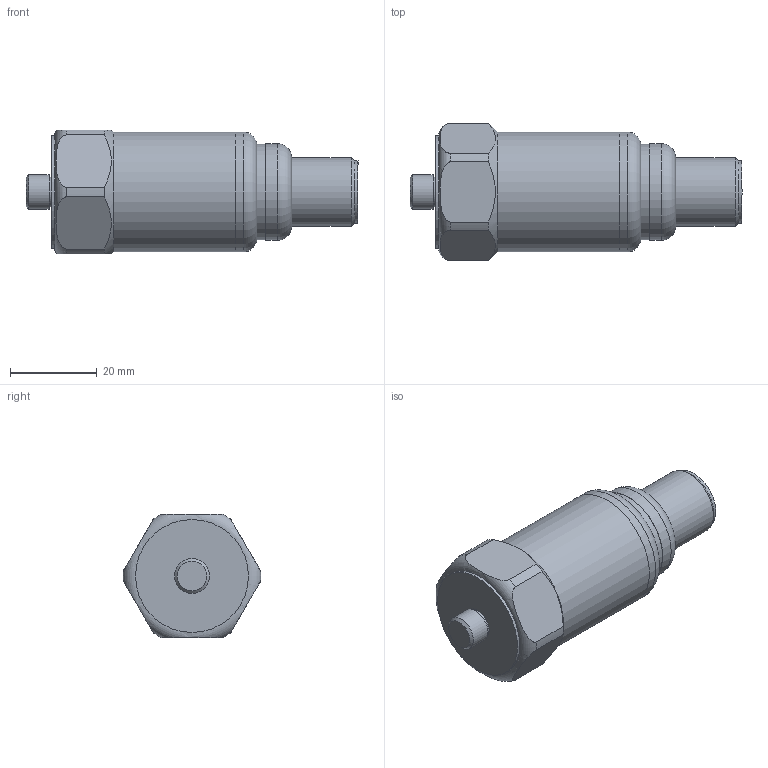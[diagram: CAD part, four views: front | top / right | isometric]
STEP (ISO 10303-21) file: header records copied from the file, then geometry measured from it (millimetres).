
FILE_DESCRIPTION(/* description */ (''),/* implementation_level */ '2;1');
FILE_NAME(/* name */ 'Z:\Engineering\Drawings\3D Library\Assemblies\Website\HS-420XXX5008.stp',/* time_stamp */ '2023-04-05T21:29:42+01:00',/* author */ ('Ricardo.Peneda'),/* organization */ (''),/* preprocessor_version */ 'ST-DEVELOPER v18.1',/* originating_system */ 'Autodesk Inventor 2021',/* authorisation */ '');
FILE_SCHEMA (('AUTOMOTIVE_DESIGN { 1 0 10303 214 3 1 1 }'));
Length unit declared in the file: inch
Products named in the file (1): HS-420XXX5008_Shrinkwrap_1
Bounding box: 76.42 x 31.69 x 28.5 mm (x, y, z)
Volume: 16007.5 mm3; surface area: 12119.9 mm2
Topology: 4 solids, 4 shells, 61 faces, 158 edges, 116 vertices
Faces by surface type: cylinder 26, plane 25, cone 6, torus 4
Full cylindrical faces by diameter (mm): 5 x1, 6.3 x1, 6.35 x1, 6.8 x1, 7 x1, 7.5 x1, 8 x1, 11.37 x1, 14.28 x1, 15.7 x1, 19 x1, 20 x1, 22 x1, 22.2 x1, 23.3 x1, 25.3 x2, 26 x1, 27.5 x2
Entity records: 2190 total; most frequent: CARTESIAN_POINT 482, DIRECTION 374, ORIENTED_EDGE 316, AXIS2_PLACEMENT_3D 168, EDGE_CURVE 158, VERTEX_POINT 116, CIRCLE 106, EDGE_LOOP 74
